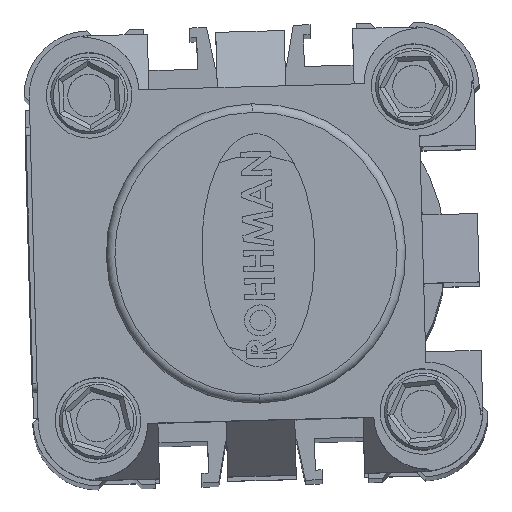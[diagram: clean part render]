
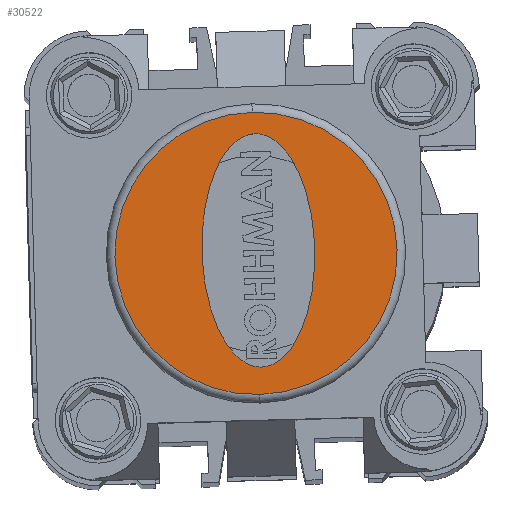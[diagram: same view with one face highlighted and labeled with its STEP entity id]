
A CAD part, top view. The second image highlights one B-rep face of the part: STEP entity #30522.
In plain terms, the highlighted planar face has unit normal (0, 0, 1) as drawn and (0, 0, -1) by its records, which use the part's own axes.
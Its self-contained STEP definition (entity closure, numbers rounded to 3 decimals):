
#214 = DIRECTION ( 'NONE',  ( -1., 0., 0. ) ) ;
#723 = ORIENTED_EDGE ( 'NONE', *, *, #21822, .F. ) ;
#1130 = CARTESIAN_POINT ( 'NONE',  ( 39.297, 25.719, -4. ) ) ;
#1854 = AXIS2_PLACEMENT_3D ( 'NONE', #16169, #18821, #3214 ) ;
#3190 = FACE_OUTER_BOUND ( 'NONE', #4856, .T. ) ;
#3214 = DIRECTION ( 'NONE',  ( -1., 0., 0. ) ) ;
#3363 = PLANE ( 'NONE',  #22192 ) ;
#3730 = CARTESIAN_POINT ( 'NONE',  ( 42.5, 26., -4. ) ) ;
#3863 = DIRECTION ( 'NONE',  ( -1., 0., 0. ) ) ;
#4856 = EDGE_LOOP ( 'NONE', ( #30701, #28328 ) ) ;
#6573 = CARTESIAN_POINT ( 'NONE',  ( 9.5, 26., -4. ) ) ;
#7054 = EDGE_CURVE ( 'NONE', #12897, #23349, #16136, .T. ) ;
#7243 = CARTESIAN_POINT ( 'NONE',  ( 39.297, 25.719, -4. ) ) ;
#8498 = DIRECTION ( 'NONE',  ( 0., 0., -1. ) ) ;
#8915 = ORIENTED_EDGE ( 'NONE', *, *, #10161, .F. ) ;
#9169 =( BOUNDED_CURVE ( )  B_SPLINE_CURVE ( 3, ( #7243, #21834, #12218, #22318 ),
 .UNSPECIFIED., .F., .F. ) 
 B_SPLINE_CURVE_WITH_KNOTS ( ( 4, 4 ),
 ( 0., 3.142 ),
 .UNSPECIFIED. ) 
 CURVE ( )  GEOMETRIC_REPRESENTATION_ITEM ( )  RATIONAL_B_SPLINE_CURVE ( ( 1., 0.333, 0.333, 1. ) ) 
 REPRESENTATION_ITEM ( '' )  );
#10161 = EDGE_CURVE ( 'NONE', #19129, #22522, #9169, .T. ) ;
#11419 = CARTESIAN_POINT ( 'NONE',  ( 12.017, 38.913, -4. ) ) ;
#12218 = CARTESIAN_POINT ( 'NONE',  ( 12.017, 12.525, -4. ) ) ;
#12897 = VERTEX_POINT ( 'NONE', #6573 ) ;
#13474 = CARTESIAN_POINT ( 'NONE',  ( 26., 26., -4. ) ) ;
#13562 = CARTESIAN_POINT ( 'NONE',  ( 39.297, 38.913, -4. ) ) ;
#15750 = CIRCLE ( 'NONE', #17873, 16.5 ) ;
#16136 = CIRCLE ( 'NONE', #1854, 16.5 ) ;
#16169 = CARTESIAN_POINT ( 'NONE',  ( 26., 26., -4. ) ) ;
#16704 = CARTESIAN_POINT ( 'NONE',  ( 39.297, 25.719, -4. ) ) ;
#17873 = AXIS2_PLACEMENT_3D ( 'NONE', #13474, #8498, #214 ) ;
#18821 = DIRECTION ( 'NONE',  ( 0., 0., -1. ) ) ;
#19129 = VERTEX_POINT ( 'NONE', #1130 ) ;
#20365 =( BOUNDED_CURVE ( )  B_SPLINE_CURVE ( 3, ( #26330, #11419, #13562, #16704 ),
 .UNSPECIFIED., .F., .T. ) 
 B_SPLINE_CURVE_WITH_KNOTS ( ( 4, 4 ),
 ( 3.142, 6.283 ),
 .UNSPECIFIED. ) 
 CURVE ( )  GEOMETRIC_REPRESENTATION_ITEM ( )  RATIONAL_B_SPLINE_CURVE ( ( 1., 0.333, 0.333, 1. ) ) 
 REPRESENTATION_ITEM ( '' )  );
#21291 = CARTESIAN_POINT ( 'NONE',  ( 26., 26., -4. ) ) ;
#21403 = EDGE_CURVE ( 'NONE', #23349, #12897, #15750, .T. ) ;
#21457 = FACE_BOUND ( 'NONE', #30029, .T. ) ;
#21822 = EDGE_CURVE ( 'NONE', #22522, #19129, #20365, .T. ) ;
#21834 = CARTESIAN_POINT ( 'NONE',  ( 39.297, 12.525, -4. ) ) ;
#22192 = AXIS2_PLACEMENT_3D ( 'NONE', #21291, #31760, #3863 ) ;
#22318 = CARTESIAN_POINT ( 'NONE',  ( 12.017, 25.719, -4. ) ) ;
#22522 = VERTEX_POINT ( 'NONE', #28721 ) ;
#23349 = VERTEX_POINT ( 'NONE', #3730 ) ;
#26330 = CARTESIAN_POINT ( 'NONE',  ( 12.017, 25.719, -4. ) ) ;
#28328 = ORIENTED_EDGE ( 'NONE', *, *, #21403, .T. ) ;
#28721 = CARTESIAN_POINT ( 'NONE',  ( 12.017, 25.719, -4. ) ) ;
#30029 = EDGE_LOOP ( 'NONE', ( #8915, #723 ) ) ;
#30522 = ADVANCED_FACE ( 'NONE', ( #21457, #3190 ), #3363, .T. ) ;
#30701 = ORIENTED_EDGE ( 'NONE', *, *, #7054, .T. ) ;
#31760 = DIRECTION ( 'NONE',  ( 0., 0., -1. ) ) ;
